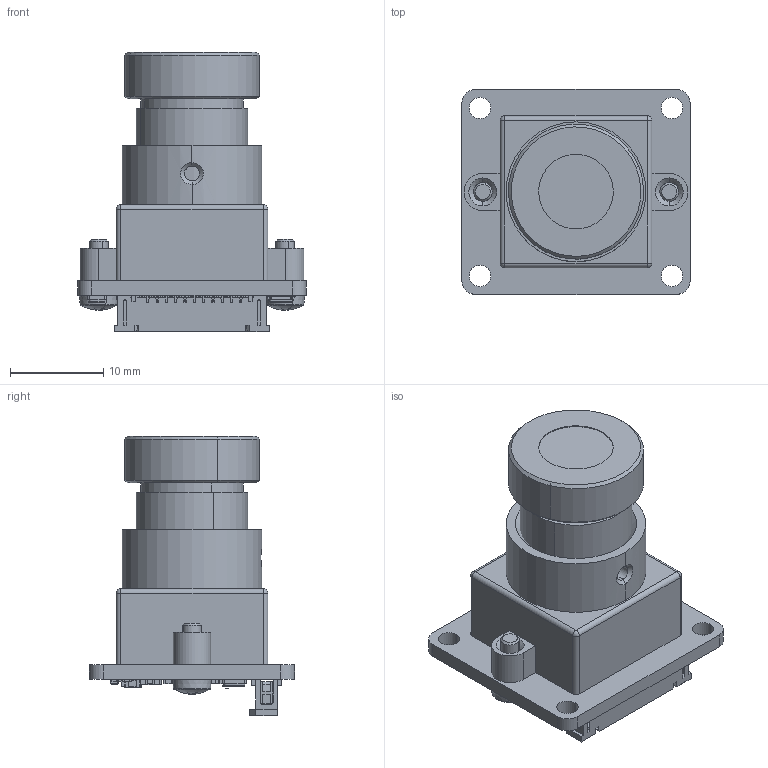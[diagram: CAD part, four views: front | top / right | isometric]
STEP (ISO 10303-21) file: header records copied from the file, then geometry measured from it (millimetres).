
FILE_DESCRIPTION((''),'2;1');
FILE_NAME('DS-CIMX327-22-40_LIGHT','2025-03-13T',('admin'),(''),'CREO PARAMETRIC BY PTC INC, 2017300','CREO PARAMETRIC BY PTC INC, 2017300','');
FILE_SCHEMA(('AUTOMOTIVE_DESIGN { 1 0 10303 214 1 1 1 1 }'));
Length unit declared in the file: millimetre
Products named in the file (1): DS-CIMX327-22-40_LIGHT
Bounding box: 24.5 x 22 x 29.96 mm (x, y, z)
Surface area: 3576.8 mm2 (no closed solid volume)
Topology: 0 solids, 255 shells, 766 faces, 2971 edges, 2446 vertices
Faces by surface type: plane 600, cylinder 95, bspline 36, cone 18, sphere 9, torus 8
Entity records: 38006 total; most frequent: CARTESIAN_POINT 8933, DIRECTION 4711, ORIENTED_EDGE 3790, EDGE_CURVE 2962, VECTOR 2457, LINE 2457, VERTEX_POINT 2446, AXIS2_PLACEMENT_3D 1127
